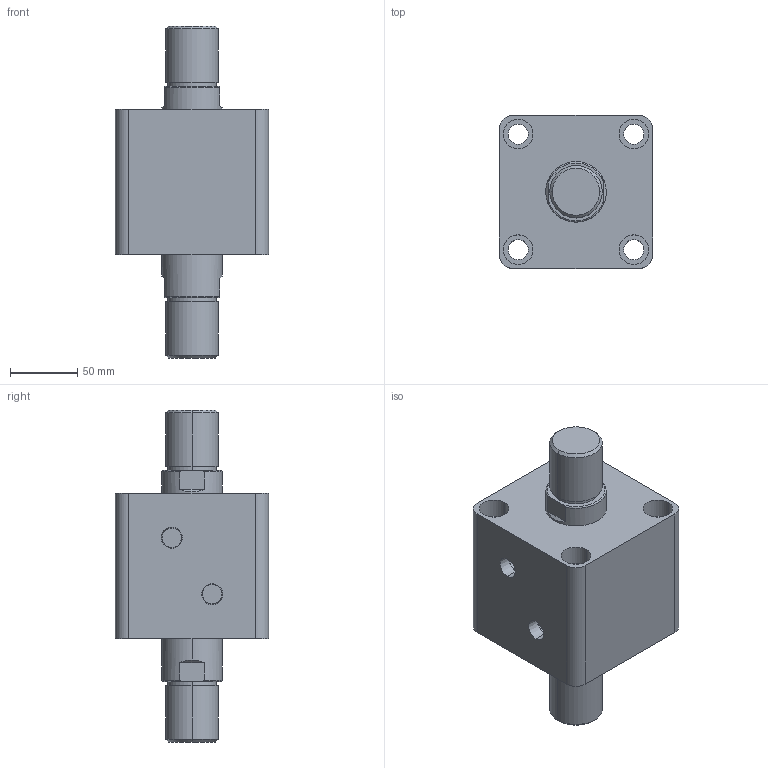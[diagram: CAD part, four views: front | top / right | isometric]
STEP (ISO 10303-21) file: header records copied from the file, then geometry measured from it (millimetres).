
FILE_DESCRIPTION (( 'STEP AP203' ), '1' );
FILE_NAME ('HTB-SW80-15W.STEP', '2019-10-07T10:20:09', ( '微软用户' ), ( '微软中国' ), 'SwSTEP 2.0', 'SolidWorks 2012', '' );
FILE_SCHEMA (( 'CONFIG_CONTROL_DESIGN' ));
Length unit declared in the file: millimetre
Products named in the file (3): HTB-SW80-15W; HTB-SW80-15W活塞杆; HTB-SW80-15掛极
Assembly tree (2 placements, depth 2):
  HTB-SW80-15W
    HTB-SW80-15掛极
    HTB-SW80-15W活塞杆
Bounding box: 114 x 114 x 247 mm (x, y, z)
Volume: 1420239.3 mm3; surface area: 166791.9 mm2
Topology: 2 solids, 2 shells, 108 faces, 240 edges, 156 vertices
Faces by surface type: cylinder 52, plane 36, torus 12, cone 8
Entity records: 3449 total; most frequent: CARTESIAN_POINT 629, DIRECTION 586, ORIENTED_EDGE 480, AXIS2_PLACEMENT_3D 249, EDGE_CURVE 240, VERTEX_POINT 156, EDGE_LOOP 138, CIRCLE 136
